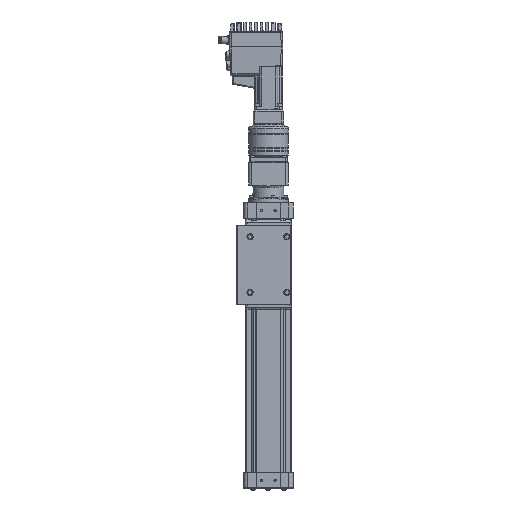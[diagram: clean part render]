
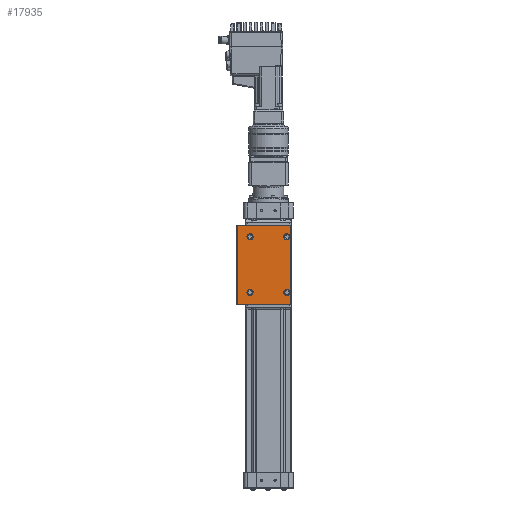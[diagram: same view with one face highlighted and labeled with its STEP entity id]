
A CAD part, front view. The second image highlights one B-rep face of the part: STEP entity #17935.
In plain terms, the highlighted planar face has unit normal (0, -1, 0).
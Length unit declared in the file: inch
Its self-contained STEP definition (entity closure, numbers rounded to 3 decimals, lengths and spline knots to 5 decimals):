
#3063 = ORIENTED_EDGE ( 'NONE', *, *, #145933, .T. ) ;
#14396 = CARTESIAN_POINT ( 'NONE',  ( 1.8275, -6.566, -5.75 ) ) ;
#17935 = ADVANCED_FACE ( 'NONE', ( #71191, #85271, #139007, #18302, #72077 ), #112570, .T. ) ;
#18302 = FACE_BOUND ( 'NONE', #167003, .T. ) ;
#18332 = CARTESIAN_POINT ( 'NONE',  ( -1.8915, -6.566, 0. ) ) ;
#19789 = DIRECTION ( 'NONE',  ( 0., 0., -1. ) ) ;
#21575 = VERTEX_POINT ( 'NONE', #143991 ) ;
#29029 = VECTOR ( 'NONE', #52378, 39.37008 ) ;
#30914 = EDGE_CURVE ( 'NONE', #78986, #78986, #118458, .T. ) ;
#30937 = AXIS2_PLACEMENT_3D ( 'NONE', #132545, #158970, #121945 ) ;
#32232 = CARTESIAN_POINT ( 'NONE',  ( -1.5625, -6.566, -5.75 ) ) ;
#34063 = AXIS2_PLACEMENT_3D ( 'NONE', #32232, #61269, #168694 ) ;
#37694 = VECTOR ( 'NONE', #95345, 39.37008 ) ;
#39975 = VERTEX_POINT ( 'NONE', #14396 ) ;
#41590 = CARTESIAN_POINT ( 'NONE',  ( 2.7035, -6.566, 0. ) ) ;
#43731 = ORIENTED_EDGE ( 'NONE', *, *, #30914, .F. ) ;
#45589 = CARTESIAN_POINT ( 'NONE',  ( 2.7035, -6.566, 0. ) ) ;
#47145 = LINE ( 'NONE', #107847, #29029 ) ;
#47496 = DIRECTION ( 'NONE',  ( 1., 0., 0. ) ) ;
#52378 = DIRECTION ( 'NONE',  ( -1., 0., 0. ) ) ;
#52818 = VERTEX_POINT ( 'NONE', #87137 ) ;
#53872 = EDGE_CURVE ( 'NONE', #39975, #39975, #71184, .T. ) ;
#59936 = VERTEX_POINT ( 'NONE', #147090 ) ;
#61269 = DIRECTION ( 'NONE',  ( 0., -1., 0. ) ) ;
#64388 = ORIENTED_EDGE ( 'NONE', *, *, #53872, .F. ) ;
#67191 = VERTEX_POINT ( 'NONE', #75841 ) ;
#68592 = AXIS2_PLACEMENT_3D ( 'NONE', #45589, #167175, #157401 ) ;
#68645 = CARTESIAN_POINT ( 'NONE',  ( 2.6725, -6.566, -6.75 ) ) ;
#70353 = LINE ( 'NONE', #18332, #77617 ) ;
#71184 = CIRCLE ( 'NONE', #73955, 0.265 ) ;
#71191 = FACE_OUTER_BOUND ( 'NONE', #157767, .T. ) ;
#72077 = FACE_BOUND ( 'NONE', #125787, .T. ) ;
#73955 = AXIS2_PLACEMENT_3D ( 'NONE', #114486, #168198, #47496 ) ;
#75841 = CARTESIAN_POINT ( 'NONE',  ( -1.8915, -6.566, -6.75 ) ) ;
#77617 = VECTOR ( 'NONE', #111729, 39.37008 ) ;
#78986 = VERTEX_POINT ( 'NONE', #132689 ) ;
#85271 = FACE_BOUND ( 'NONE', #116817, .T. ) ;
#87137 = CARTESIAN_POINT ( 'NONE',  ( 2.6725, -6.566, 0. ) ) ;
#90066 = VERTEX_POINT ( 'NONE', #118242 ) ;
#95345 = DIRECTION ( 'NONE',  ( -1., 0., 0. ) ) ;
#99853 = ORIENTED_EDGE ( 'NONE', *, *, #133805, .F. ) ;
#101357 = VECTOR ( 'NONE', #19789, 39.37008 ) ;
#106889 = CIRCLE ( 'NONE', #30937, 0.265 ) ;
#106946 = EDGE_CURVE ( 'NONE', #59936, #67191, #70353, .T. ) ;
#106960 = VERTEX_POINT ( 'NONE', #68645 ) ;
#107847 = CARTESIAN_POINT ( 'NONE',  ( 2.7035, -6.566, -6.75 ) ) ;
#108001 = LINE ( 'NONE', #125559, #101357 ) ;
#108365 = ORIENTED_EDGE ( 'NONE', *, *, #140326, .F. ) ;
#111446 = CARTESIAN_POINT ( 'NONE',  ( 1.5625, -6.566, -1. ) ) ;
#111729 = DIRECTION ( 'NONE',  ( 0., 0., -1. ) ) ;
#112570 = PLANE ( 'NONE',  #68592 ) ;
#113120 = CIRCLE ( 'NONE', #135612, 0.265 ) ;
#114486 = CARTESIAN_POINT ( 'NONE',  ( 1.5625, -6.566, -5.75 ) ) ;
#116817 = EDGE_LOOP ( 'NONE', ( #64388 ) ) ;
#117630 = EDGE_CURVE ( 'NONE', #21575, #21575, #113120, .T. ) ;
#118242 = CARTESIAN_POINT ( 'NONE',  ( -1.2975, -6.566, -1. ) ) ;
#118458 = CIRCLE ( 'NONE', #34063, 0.265 ) ;
#119156 = LINE ( 'NONE', #41590, #37694 ) ;
#121945 = DIRECTION ( 'NONE',  ( 1., 0., 0. ) ) ;
#122086 = DIRECTION ( 'NONE',  ( 0., -1., 0. ) ) ;
#125559 = CARTESIAN_POINT ( 'NONE',  ( 2.6725, -6.566, 0. ) ) ;
#125787 = EDGE_LOOP ( 'NONE', ( #43731 ) ) ;
#129320 = ORIENTED_EDGE ( 'NONE', *, *, #117630, .F. ) ;
#132545 = CARTESIAN_POINT ( 'NONE',  ( -1.5625, -6.566, -1. ) ) ;
#132689 = CARTESIAN_POINT ( 'NONE',  ( -1.2975, -6.566, -5.75 ) ) ;
#133038 = ORIENTED_EDGE ( 'NONE', *, *, #106946, .T. ) ;
#133805 = EDGE_CURVE ( 'NONE', #52818, #106960, #108001, .T. ) ;
#135612 = AXIS2_PLACEMENT_3D ( 'NONE', #111446, #122086, #165184 ) ;
#139007 = FACE_BOUND ( 'NONE', #167424, .T. ) ;
#140326 = EDGE_CURVE ( 'NONE', #90066, #90066, #106889, .T. ) ;
#143991 = CARTESIAN_POINT ( 'NONE',  ( 1.8275, -6.566, -1. ) ) ;
#144516 = EDGE_CURVE ( 'NONE', #106960, #67191, #47145, .T. ) ;
#145933 = EDGE_CURVE ( 'NONE', #52818, #59936, #119156, .T. ) ;
#147090 = CARTESIAN_POINT ( 'NONE',  ( -1.8915, -6.566, 0. ) ) ;
#148239 = ORIENTED_EDGE ( 'NONE', *, *, #144516, .F. ) ;
#157401 = DIRECTION ( 'NONE',  ( 0., 0., 1. ) ) ;
#157767 = EDGE_LOOP ( 'NONE', ( #3063, #133038, #148239, #99853 ) ) ;
#158970 = DIRECTION ( 'NONE',  ( 0., -1., 0. ) ) ;
#165184 = DIRECTION ( 'NONE',  ( 1., 0., 0. ) ) ;
#167003 = EDGE_LOOP ( 'NONE', ( #108365 ) ) ;
#167175 = DIRECTION ( 'NONE',  ( 0., -1., 0. ) ) ;
#167424 = EDGE_LOOP ( 'NONE', ( #129320 ) ) ;
#168198 = DIRECTION ( 'NONE',  ( 0., -1., 0. ) ) ;
#168694 = DIRECTION ( 'NONE',  ( 1., 0., 0. ) ) ;
